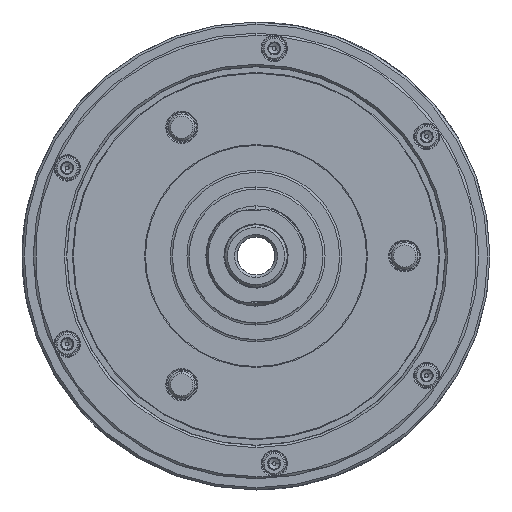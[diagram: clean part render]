
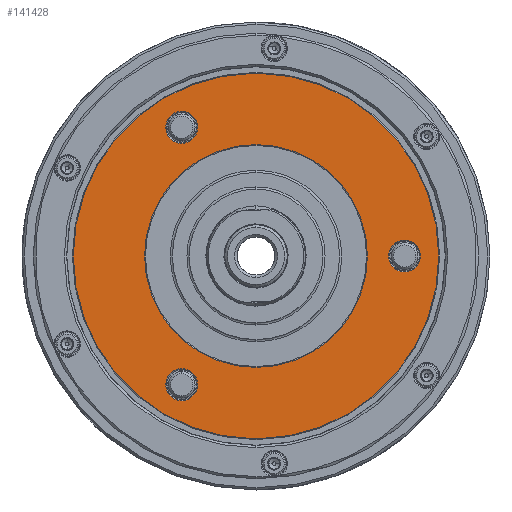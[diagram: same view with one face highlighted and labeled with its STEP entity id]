
A CAD part, left-side view. The second image highlights one B-rep face of the part: STEP entity #141428.
In plain terms, the highlighted planar face has unit normal (-1, 0, 0).
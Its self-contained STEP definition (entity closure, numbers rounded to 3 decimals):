
#2232 = EDGE_CURVE ( 'NONE', #8929, #87884, #56104, .T. ) ;
#3347 = DIRECTION ( 'NONE',  ( 1., 0., 0. ) ) ;
#4402 = CARTESIAN_POINT ( 'NONE',  ( -93.5, 0., 50. ) ) ;
#5278 = EDGE_LOOP ( 'NONE', ( #63736, #35197 ) ) ;
#5956 = DIRECTION ( 'NONE',  ( 1., 0., 0. ) ) ;
#6306 = CARTESIAN_POINT ( 'NONE',  ( -93.5, -66.675, 0. ) ) ;
#8929 = VERTEX_POINT ( 'NONE', #70544 ) ;
#10868 = EDGE_CURVE ( 'NONE', #18463, #99311, #26724, .T. ) ;
#11432 = DIRECTION ( 'NONE',  ( 1., 0., 0. ) ) ;
#12796 = VERTEX_POINT ( 'NONE', #4402 ) ;
#12858 = VERTEX_POINT ( 'NONE', #202074 ) ;
#15520 = DIRECTION ( 'NONE',  ( 0., 0., -1. ) ) ;
#16350 = DIRECTION ( 'NONE',  ( 1., 0., 0. ) ) ;
#16505 = CIRCLE ( 'NONE', #56783, 7.15 ) ;
#18463 = VERTEX_POINT ( 'NONE', #19470 ) ;
#19470 = CARTESIAN_POINT ( 'NONE',  ( -93.5, 0., -82. ) ) ;
#22325 = CIRCLE ( 'NONE', #103774, 50. ) ;
#22588 = DIRECTION ( 'NONE',  ( 0., 0., -1. ) ) ;
#22844 = FACE_BOUND ( 'NONE', #37306, .T. ) ;
#25090 = AXIS2_PLACEMENT_3D ( 'NONE', #108481, #11432, #124749 ) ;
#26724 = CIRCLE ( 'NONE', #162464, 82. ) ;
#26803 = VERTEX_POINT ( 'NONE', #210141 ) ;
#31806 = DIRECTION ( 'NONE',  ( 1., 0., 0. ) ) ;
#34702 = EDGE_LOOP ( 'NONE', ( #149031, #208059, #63340, #131239, #73709 ) ) ;
#34714 = CIRCLE ( 'NONE', #182760, 7.15 ) ;
#35045 = VERTEX_POINT ( 'NONE', #40379 ) ;
#35197 = ORIENTED_EDGE ( 'NONE', *, *, #97699, .T. ) ;
#36240 = EDGE_CURVE ( 'NONE', #76258, #147762, #127702, .T. ) ;
#37306 = EDGE_LOOP ( 'NONE', ( #140061, #178319 ) ) ;
#39199 = CIRCLE ( 'NONE', #105423, 50. ) ;
#39347 = CIRCLE ( 'NONE', #94280, 7.15 ) ;
#40379 = CARTESIAN_POINT ( 'NONE',  ( -93.5, 33.338, 64.892 ) ) ;
#42422 = EDGE_CURVE ( 'NONE', #95433, #12858, #143800, .T. ) ;
#44593 = DIRECTION ( 'NONE',  ( 1., 0., 0. ) ) ;
#48370 = CARTESIAN_POINT ( 'NONE',  ( -93.5, 0., 0. ) ) ;
#50545 = DIRECTION ( 'NONE',  ( 1., 0., 0. ) ) ;
#50828 = ORIENTED_EDGE ( 'NONE', *, *, #148621, .T. ) ;
#55464 = DIRECTION ( 'NONE',  ( 1., 0., 0. ) ) ;
#56104 = CIRCLE ( 'NONE', #184582, 7.15 ) ;
#56783 = AXIS2_PLACEMENT_3D ( 'NONE', #209686, #112553, #15520 ) ;
#57912 = VERTEX_POINT ( 'NONE', #111870 ) ;
#60352 = ORIENTED_EDGE ( 'NONE', *, *, #149313, .T. ) ;
#63340 = ORIENTED_EDGE ( 'NONE', *, *, #124604, .F. ) ;
#63736 = ORIENTED_EDGE ( 'NONE', *, *, #2232, .T. ) ;
#64570 = DIRECTION ( 'NONE',  ( 0., 0., -1. ) ) ;
#65879 = FACE_OUTER_BOUND ( 'NONE', #34702, .T. ) ;
#68138 = VERTEX_POINT ( 'NONE', #176947 ) ;
#68253 = DIRECTION ( 'NONE',  ( 1., 0., 0. ) ) ;
#70544 = CARTESIAN_POINT ( 'NONE',  ( -93.5, 33.337, -50.592 ) ) ;
#71835 = AXIS2_PLACEMENT_3D ( 'NONE', #103026, #5956, #119246 ) ;
#72572 = DIRECTION ( 'NONE',  ( 1., 0., 0. ) ) ;
#72983 = EDGE_CURVE ( 'NONE', #12858, #18463, #132378, .T. ) ;
#73709 = ORIENTED_EDGE ( 'NONE', *, *, #10868, .F. ) ;
#76258 = VERTEX_POINT ( 'NONE', #81578 ) ;
#81269 = EDGE_CURVE ( 'NONE', #99311, #57912, #164365, .T. ) ;
#81578 = CARTESIAN_POINT ( 'NONE',  ( -93.5, -66.675, -7.15 ) ) ;
#87884 = VERTEX_POINT ( 'NONE', #169401 ) ;
#89574 = ORIENTED_EDGE ( 'NONE', *, *, #146138, .T. ) ;
#92546 = ORIENTED_EDGE ( 'NONE', *, *, #96892, .T. ) ;
#93956 = DIRECTION ( 'NONE',  ( 1., 0., 0. ) ) ;
#94280 = AXIS2_PLACEMENT_3D ( 'NONE', #191096, #93956, #207343 ) ;
#95433 = VERTEX_POINT ( 'NONE', #139051 ) ;
#96892 = EDGE_CURVE ( 'NONE', #68138, #12796, #22325, .T. ) ;
#97699 = EDGE_CURVE ( 'NONE', #87884, #8929, #34714, .T. ) ;
#99311 = VERTEX_POINT ( 'NONE', #187778 ) ;
#100417 = CARTESIAN_POINT ( 'NONE',  ( -93.5, 0., 0. ) ) ;
#103026 = CARTESIAN_POINT ( 'NONE',  ( -93.5, -66.675, 0. ) ) ;
#103774 = AXIS2_PLACEMENT_3D ( 'NONE', #141683, #44593, #158026 ) ;
#105423 = AXIS2_PLACEMENT_3D ( 'NONE', #48370, #161806, #64570 ) ;
#107317 = AXIS2_PLACEMENT_3D ( 'NONE', #169764, #72572, #186058 ) ;
#108481 = CARTESIAN_POINT ( 'NONE',  ( -93.5, 0., 0. ) ) ;
#109037 = FACE_BOUND ( 'NONE', #113296, .T. ) ;
#111870 = CARTESIAN_POINT ( 'NONE',  ( -93.5, 1.401, 81.988 ) ) ;
#112553 = DIRECTION ( 'NONE',  ( 1., 0., 0. ) ) ;
#113296 = EDGE_LOOP ( 'NONE', ( #50828, #92546 ) ) ;
#113365 = CARTESIAN_POINT ( 'NONE',  ( -93.5, 0., 0. ) ) ;
#115549 = AXIS2_PLACEMENT_3D ( 'NONE', #147634, #50545, #163973 ) ;
#116663 = DIRECTION ( 'NONE',  ( 0., 0., -1. ) ) ;
#119246 = DIRECTION ( 'NONE',  ( 0., 0., -1. ) ) ;
#119605 = DIRECTION ( 'NONE',  ( 1., 0., 0. ) ) ;
#124604 = EDGE_CURVE ( 'NONE', #57912, #95433, #168483, .T. ) ;
#124749 = DIRECTION ( 'NONE',  ( 0., 0., -1. ) ) ;
#127702 = CIRCLE ( 'NONE', #206069, 7.15 ) ;
#128909 = CARTESIAN_POINT ( 'NONE',  ( -93.5, 0., 0. ) ) ;
#129710 = DIRECTION ( 'NONE',  ( 0., 0., -1. ) ) ;
#131239 = ORIENTED_EDGE ( 'NONE', *, *, #81269, .F. ) ;
#132378 = CIRCLE ( 'NONE', #198892, 82. ) ;
#134587 = CIRCLE ( 'NONE', #71835, 7.15 ) ;
#135006 = AXIS2_PLACEMENT_3D ( 'NONE', #100417, #3347, #116663 ) ;
#139051 = CARTESIAN_POINT ( 'NONE',  ( -93.5, -1.401, 81.988 ) ) ;
#140061 = ORIENTED_EDGE ( 'NONE', *, *, #190603, .T. ) ;
#141428 = ADVANCED_FACE ( 'NONE', ( #65879, #109037, #157301, #152209, #22844 ), #153437, .F. ) ;
#141683 = CARTESIAN_POINT ( 'NONE',  ( -93.5, 0., 0. ) ) ;
#143800 = CIRCLE ( 'NONE', #135006, 82. ) ;
#145249 = DIRECTION ( 'NONE',  ( 0., 0., -1. ) ) ;
#146138 = EDGE_CURVE ( 'NONE', #35045, #26803, #39347, .T. ) ;
#147634 = CARTESIAN_POINT ( 'NONE',  ( -93.5, 0., 0. ) ) ;
#147762 = VERTEX_POINT ( 'NONE', #184868 ) ;
#148621 = EDGE_CURVE ( 'NONE', #12796, #68138, #39199, .T. ) ;
#149031 = ORIENTED_EDGE ( 'NONE', *, *, #72983, .F. ) ;
#149313 = EDGE_CURVE ( 'NONE', #26803, #35045, #16505, .T. ) ;
#152209 = FACE_BOUND ( 'NONE', #209501, .T. ) ;
#152597 = CARTESIAN_POINT ( 'NONE',  ( -93.5, 33.337, -57.742 ) ) ;
#153437 = PLANE ( 'NONE',  #107317 ) ;
#157301 = FACE_BOUND ( 'NONE', #5278, .T. ) ;
#158026 = DIRECTION ( 'NONE',  ( 0., 0., -1. ) ) ;
#161806 = DIRECTION ( 'NONE',  ( 1., 0., 0. ) ) ;
#162464 = AXIS2_PLACEMENT_3D ( 'NONE', #113365, #16350, #129710 ) ;
#163973 = DIRECTION ( 'NONE',  ( 0., 0., -1. ) ) ;
#164365 = CIRCLE ( 'NONE', #115549, 82. ) ;
#165482 = CARTESIAN_POINT ( 'NONE',  ( -93.5, 33.337, -57.742 ) ) ;
#168483 = CIRCLE ( 'NONE', #25090, 82. ) ;
#168954 = DIRECTION ( 'NONE',  ( 0., 0., -1. ) ) ;
#169401 = CARTESIAN_POINT ( 'NONE',  ( -93.5, 33.337, -64.892 ) ) ;
#169764 = CARTESIAN_POINT ( 'NONE',  ( -93.5, -82., 0. ) ) ;
#176947 = CARTESIAN_POINT ( 'NONE',  ( -93.5, 0., -50. ) ) ;
#178319 = ORIENTED_EDGE ( 'NONE', *, *, #36240, .T. ) ;
#181819 = DIRECTION ( 'NONE',  ( 0., 0., -1. ) ) ;
#182760 = AXIS2_PLACEMENT_3D ( 'NONE', #165482, #68253, #181819 ) ;
#184582 = AXIS2_PLACEMENT_3D ( 'NONE', #152597, #55464, #168954 ) ;
#184868 = CARTESIAN_POINT ( 'NONE',  ( -93.5, -66.675, 7.15 ) ) ;
#186058 = DIRECTION ( 'NONE',  ( 0., 0., -1. ) ) ;
#187778 = CARTESIAN_POINT ( 'NONE',  ( -93.5, 1.401, -81.988 ) ) ;
#190603 = EDGE_CURVE ( 'NONE', #147762, #76258, #134587, .T. ) ;
#191096 = CARTESIAN_POINT ( 'NONE',  ( -93.5, 33.338, 57.742 ) ) ;
#198892 = AXIS2_PLACEMENT_3D ( 'NONE', #128909, #31806, #145249 ) ;
#202074 = CARTESIAN_POINT ( 'NONE',  ( -93.5, -1.401, -81.988 ) ) ;
#206069 = AXIS2_PLACEMENT_3D ( 'NONE', #6306, #119605, #22588 ) ;
#207343 = DIRECTION ( 'NONE',  ( 0., 0., -1. ) ) ;
#208059 = ORIENTED_EDGE ( 'NONE', *, *, #42422, .F. ) ;
#209501 = EDGE_LOOP ( 'NONE', ( #89574, #60352 ) ) ;
#209686 = CARTESIAN_POINT ( 'NONE',  ( -93.5, 33.338, 57.742 ) ) ;
#210141 = CARTESIAN_POINT ( 'NONE',  ( -93.5, 33.338, 50.592 ) ) ;
